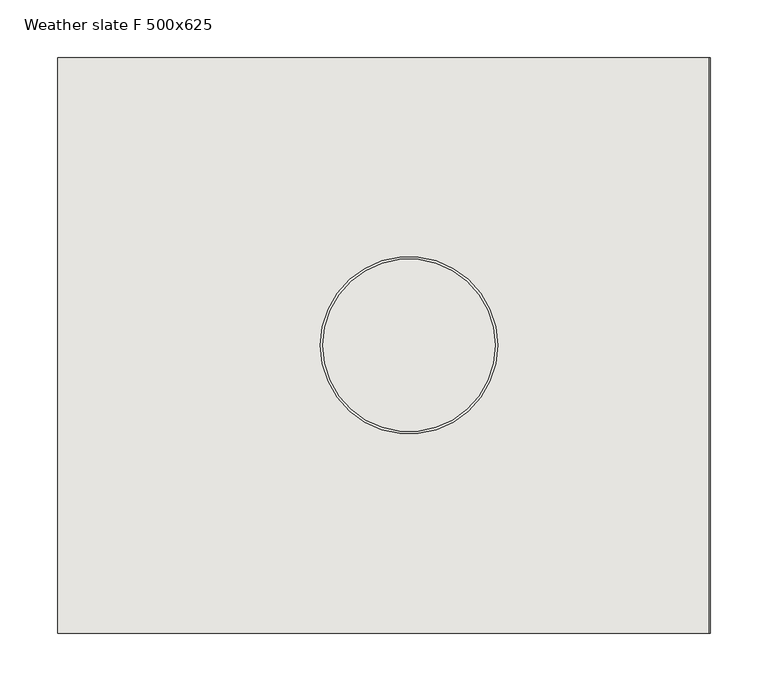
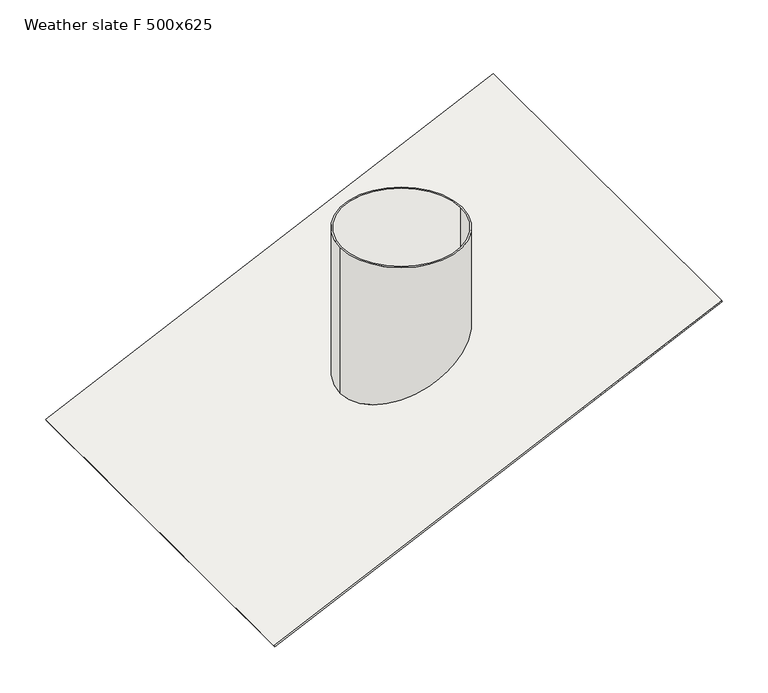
"""IFC4 building model written with IfcOpenShell, lengths in millimetres: covering geometry, NLRS_57_GM_WPB_weather slate steep roof_M&G : Weather slate F 500x625."""

from ifc_helpers import new_model, si_unit, frame, origin, place, context, project, spatial, polyline, circle_curve, ellipse_curve, source, transform, mapped, element, save
from ifc_brep_helpers import plane_surface, cylinder_surface, revolved_surface, advanced_brep


def weather_slate_f_500x625_801cf8bc(model_context):
    return source(origin(), model_context, "Body", "AdvancedBrep", [
        advanced_brep(
        [(261.9229505, -250.0, 122.1366776), (261.0777139, -250.0, 123.9492932), (-305.364653, -250.0, -140.1871204), (-304.5194164, -250.0, -141.9997359), (261.9229505, 250.0, 122.1366776), (-304.5194164, 250.0, -141.9997359), (-305.364653, 250.0, -140.1871204), (261.0777139, 250.0, 123.9492932), (77.0, 0.0, 38.1124455), (-77.0, 0.0, -33.6989338), (75.0, 0.0, 37.1798302), (-75.0, 0.0, -32.7663185), (-77.0, 0.0, 161.3227861), (77.0, 0.0, 161.3227861), (-75.0, 0.0, 161.3227861), (75.0, 0.0, 161.3227861)],
        [
            (0, 1),
            (1, 2),
            (2, 3),
            (3, 0),
            (4, 5),
            (5, 6),
            (6, 7),
            (7, 4),
            (0, 4),
            (7, 1),
            (6, 2),
            (8, 9, ellipse_curve(frame((0.0, 0.0, 2.2067558), z_axis=(0.4226182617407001, 0.0, -0.9063077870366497), x_axis=(0.9063077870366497, 0.0, 0.42261826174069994)), 84.9600998, 77.0)),
            (9, 8, ellipse_curve(frame((0.0, 0.0, 2.2067558), z_axis=(0.4226182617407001, 0.0, -0.9063077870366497), x_axis=(0.9063077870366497, 0.0, 0.42261826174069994)), 84.9600998, 77.0)),
            (10, 11, ellipse_curve(frame((0.0, 0.0, 2.2067558), z_axis=(-0.4226182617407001, 0.0, 0.9063077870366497), x_axis=(-0.9063077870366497, 0.0, -0.42261826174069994)), 82.7533439, 75.0)),
            (11, 10, ellipse_curve(frame((0.0, 0.0, 2.2067558), z_axis=(-0.4226182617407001, 0.0, 0.9063077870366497), x_axis=(-0.9063077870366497, 0.0, -0.42261826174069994)), 82.7533439, 75.0)),
            (5, 3),
            (12, 13, circle_curve(frame((0.0, 0.0, 161.3227861), z_axis=(0.0, 0.0, 1.0), x_axis=(1.0, 0.0, 0.0)), 77.0)),
            (13, 12, circle_curve(frame((0.0, 0.0, 161.3227861), z_axis=(0.0, 0.0, 1.0), x_axis=(1.0, 0.0, 0.0)), 77.0)),
            (14, 15, circle_curve(frame((0.0, 0.0, 161.3227861), z_axis=(0.0, 0.0, -1.0), x_axis=(1.0, 0.0, 0.0)), 75.0)),
            (15, 14, circle_curve(frame((0.0, 0.0, 161.3227861), z_axis=(0.0, 0.0, -1.0), x_axis=(1.0, 0.0, 0.0)), 75.0)),
            (12, 9),
            (8, 13),
            (14, 11),
            (10, 15),
        ],
        [
            plane_surface(frame((261.9229505, -250.0, 122.1366776), z_axis=(0.0, -1.0, 0.0), x_axis=(-0.4226182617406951, 0.0, 0.9063077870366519))),
            plane_surface(frame((261.9229505, 250.0, 122.1366776), z_axis=(0.0, 1.0, 0.0), x_axis=(0.4226182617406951, 0.0, -0.9063077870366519))),
            plane_surface(frame((261.9229505, -250.0, 122.1366776), z_axis=(0.9063077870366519, 0.0, 0.4226182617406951), x_axis=(0.0, 1.0, 0.0))),
            plane_surface(frame((261.0777139, -250.0, 123.9492932), z_axis=(-0.4226182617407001, 0.0, 0.9063077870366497), x_axis=(0.0, 1.0, 0.0))),
            plane_surface(frame((-305.364653, -250.0, -140.1871204), z_axis=(-0.9063077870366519, 0.0, -0.4226182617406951), x_axis=(0.0, 1.0, 0.0))),
            plane_surface(frame((77.0, 0.0, 161.3227861), z_axis=(0.0, 0.0, 1.0), x_axis=(0.0, 1.0, 0.0))),
            cylinder_surface(frame((0.0, 0.0, -35.9056897), z_axis=(0.0, 0.0, 1.0), x_axis=(1.0, 0.0, 0.0)), 77.0),
            revolved_surface(polyline([(75.0, 0.0, -32.76631855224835), (75.0, 0.0, 161.3227861)]), (0.0, 0.0, 0.0), (0.0, 0.0, -1.0)),
            plane_surface(frame((77.0, -250.0, 35.9056897), z_axis=(0.42261826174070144, 0.0, -0.906307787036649), x_axis=(0.0, 1.0, 0.0))),
        ],
        [
            (0, [[1, 2, 3, 4]]),
            (1, [[5, 6, 7, 8]]),
            (2, [[-1, 9, -8, 10]]),
            (3, [[-2, -10, -7, 11], [12, 13]]),
            (3, [[14, 15]]),
            (4, [[-3, -11, -6, 16]]),
            (5, [[17, 18], [19, 20]]),
            (6, [[-17, 21, -12, 22]]),
            (6, [[-18, -22, -13, -21]]),
            (7, [[-19, 23, -14, 24]]),
            (7, [[-20, -24, -15, -23]]),
            (8, [[-4, -16, -5, -9]]),
        ],
    ),
    ])


if __name__ == "__main__":
    model = new_model("IFC4")
    model_context = context("Model", 3, world=origin())
    ifc_project = project(units=[si_unit("LENGTHUNIT", "METRE", prefix="MILLI")], contexts=[model_context])
    site = spatial("IfcSite", under=ifc_project)
    building = spatial("IfcBuilding", under=site)
    placement = place(None, origin())
    weather_slate_f_500x625_shape = weather_slate_f_500x625_801cf8bc(model_context)
    element("IfcCovering", 1, ObjectType="NLRS_57_GM_WPB_weather slate steep roof_M&G : Weather slate F 500x625", at=placement, inside=building, context=model_context, shape_type="MappedRepresentation", body=[
        mapped(weather_slate_f_500x625_shape, transform((0.0, 0.0, 0.0), x_axis=(1.0, 0.0, 0.0), y_axis=(0.0, 1.0, 0.0), z_axis=(0.0, 0.0, 1.0))),
    ])
    save(model, "model.ifc")
